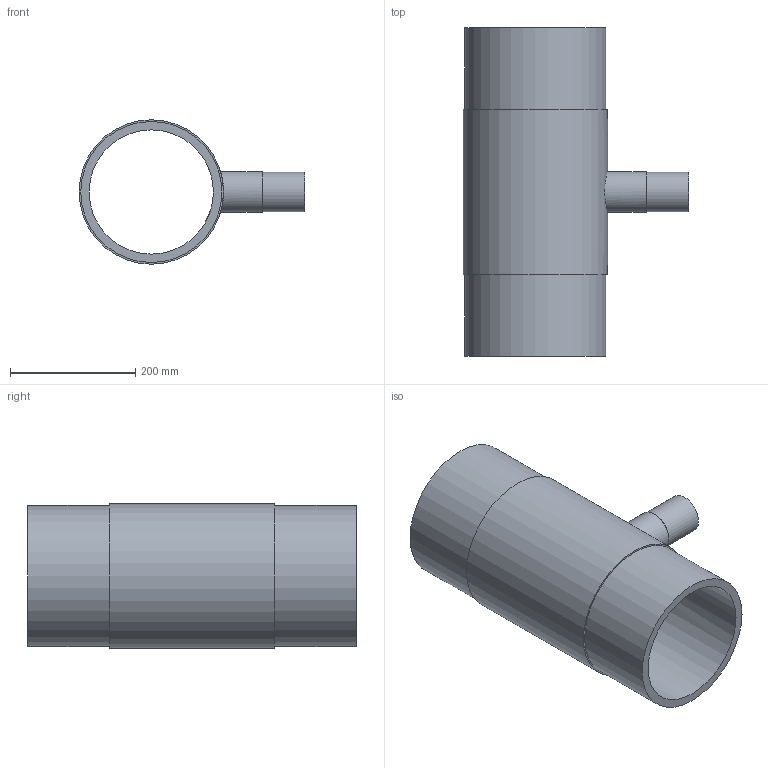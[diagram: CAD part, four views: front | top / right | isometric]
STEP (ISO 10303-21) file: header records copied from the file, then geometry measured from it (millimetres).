
FILE_DESCRIPTION(('Beschreibung'),'1');
FILE_NAME('V:/Ziel/25.20.01.063_red._SDR_17_PE100_225_063_225.STP', '2014-09-15T06:32:58',('Author'), ('Organization'), 'KCM Version 1.1.794.0', 'Kubotek KeyCreator', 'Authorization');
FILE_SCHEMA(('CONFIG_CONTROL_DESIGN'));
Length unit declared in the file: millimetre
Bounding box: 360.18 x 524 x 230.36 mm (x, y, z)
Volume: 5292200.9 mm3; surface area: 769018.4 mm2
Topology: 1 solids, 1 shells, 13 faces, 40 edges, 47 vertices
Faces by surface type: cylinder 7, plane 6
Full cylindrical faces by diameter (mm): 51.4 x1, 63 x1, 65.32 x1, 198.2 x1, 225 x2, 230.36 x1
Entity records: 750 total; most frequent: CARTESIAN_POINT 327, DIRECTION 77, ORIENTED_EDGE 48, AXIS2_PLACEMENT_3D 28, EDGE_CURVE 24, VECTOR 21, LINE 21, EDGE_LOOP 21
